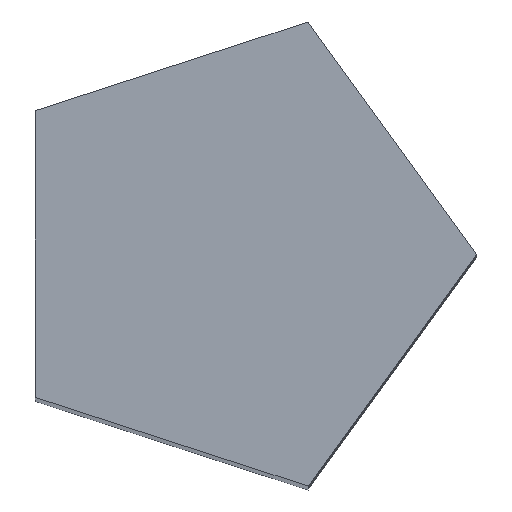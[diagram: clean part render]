
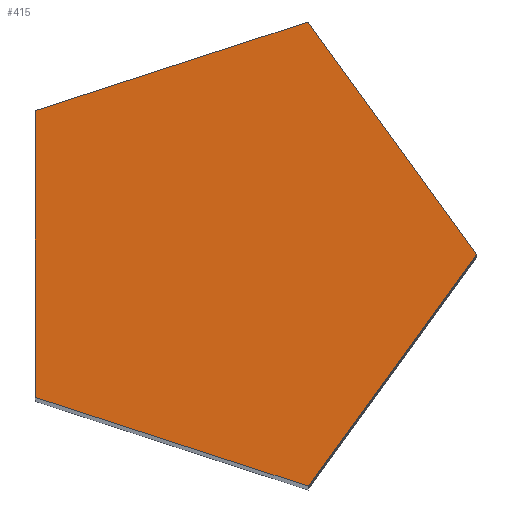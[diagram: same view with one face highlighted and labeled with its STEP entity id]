
A CAD part, top view. The second image highlights one B-rep face of the part: STEP entity #415.
In plain terms, the highlighted planar face has unit normal (0, 0, 1).
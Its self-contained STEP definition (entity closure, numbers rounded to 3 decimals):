
#24 = VERTEX_POINT('',#25);
#25 = CARTESIAN_POINT('',(14.89,0.,137.));
#32 = PLANE('',#33);
#33 = AXIS2_PLACEMENT_3D('',#34,#35,#36);
#34 = CARTESIAN_POINT('',(14.89,0.,0.));
#35 = DIRECTION('',(-0.809,-0.588,0.));
#36 = DIRECTION('',(-0.588,0.809,0.));
#44 = PLANE('',#45);
#45 = AXIS2_PLACEMENT_3D('',#46,#47,#48);
#46 = CARTESIAN_POINT('',(4.601,-14.161,0.));
#47 = DIRECTION('',(-0.809,0.588,0.));
#48 = DIRECTION('',(0.588,0.809,0.));
#56 = EDGE_CURVE('',#24,#57,#59,.T.);
#57 = VERTEX_POINT('',#58);
#58 = CARTESIAN_POINT('',(4.601,14.161,137.));
#59 = SURFACE_CURVE('',#60,(#64,#71),.PCURVE_S1.);
#60 = LINE('',#61,#62);
#61 = CARTESIAN_POINT('',(14.89,0.,137.));
#62 = VECTOR('',#63,1.);
#63 = DIRECTION('',(-0.588,0.809,0.));
#64 = PCURVE('',#32,#65);
#65 = DEFINITIONAL_REPRESENTATION('',(#66),#70);
#66 = LINE('',#67,#68);
#67 = CARTESIAN_POINT('',(0.,-137.));
#68 = VECTOR('',#69,1.);
#69 = DIRECTION('',(1.,0.));
#70 = ( GEOMETRIC_REPRESENTATION_CONTEXT(2) 
PARAMETRIC_REPRESENTATION_CONTEXT() REPRESENTATION_CONTEXT('2D SPACE',''
  ) );
#71 = PCURVE('',#72,#77);
#72 = PLANE('',#73);
#73 = AXIS2_PLACEMENT_3D('',#74,#75,#76);
#74 = CARTESIAN_POINT('',(0.,0.,137.));
#75 = DIRECTION('',(0.,0.,1.));
#76 = DIRECTION('',(1.,0.,-0.));
#77 = DEFINITIONAL_REPRESENTATION('',(#78),#82);
#78 = LINE('',#79,#80);
#79 = CARTESIAN_POINT('',(14.89,0.));
#80 = VECTOR('',#81,1.);
#81 = DIRECTION('',(-0.588,0.809));
#82 = ( GEOMETRIC_REPRESENTATION_CONTEXT(2) 
PARAMETRIC_REPRESENTATION_CONTEXT() REPRESENTATION_CONTEXT('2D SPACE',''
  ) );
#100 = PLANE('',#101);
#101 = AXIS2_PLACEMENT_3D('',#102,#103,#104);
#102 = CARTESIAN_POINT('',(4.601,14.161,0.));
#103 = DIRECTION('',(0.309,-0.951,0.));
#104 = DIRECTION('',(-0.951,-0.309,0.));
#142 = EDGE_CURVE('',#57,#143,#145,.T.);
#143 = VERTEX_POINT('',#144);
#144 = CARTESIAN_POINT('',(-12.046,8.752,137.));
#145 = SURFACE_CURVE('',#146,(#150,#157),.PCURVE_S1.);
#146 = LINE('',#147,#148);
#147 = CARTESIAN_POINT('',(4.601,14.161,137.));
#148 = VECTOR('',#149,1.);
#149 = DIRECTION('',(-0.951,-0.309,0.));
#150 = PCURVE('',#100,#151);
#151 = DEFINITIONAL_REPRESENTATION('',(#152),#156);
#152 = LINE('',#153,#154);
#153 = CARTESIAN_POINT('',(0.,-137.));
#154 = VECTOR('',#155,1.);
#155 = DIRECTION('',(1.,0.));
#156 = ( GEOMETRIC_REPRESENTATION_CONTEXT(2) 
PARAMETRIC_REPRESENTATION_CONTEXT() REPRESENTATION_CONTEXT('2D SPACE',''
  ) );
#157 = PCURVE('',#72,#158);
#158 = DEFINITIONAL_REPRESENTATION('',(#159),#163);
#159 = LINE('',#160,#161);
#160 = CARTESIAN_POINT('',(4.601,14.161));
#161 = VECTOR('',#162,1.);
#162 = DIRECTION('',(-0.951,-0.309));
#163 = ( GEOMETRIC_REPRESENTATION_CONTEXT(2) 
PARAMETRIC_REPRESENTATION_CONTEXT() REPRESENTATION_CONTEXT('2D SPACE',''
  ) );
#181 = PLANE('',#182);
#182 = AXIS2_PLACEMENT_3D('',#183,#184,#185);
#183 = CARTESIAN_POINT('',(-12.046,8.752,0.));
#184 = DIRECTION('',(1.,0.,0.));
#185 = DIRECTION('',(0.,-1.,0.));
#218 = EDGE_CURVE('',#143,#219,#221,.T.);
#219 = VERTEX_POINT('',#220);
#220 = CARTESIAN_POINT('',(-12.046,-8.752,137.));
#221 = SURFACE_CURVE('',#222,(#226,#233),.PCURVE_S1.);
#222 = LINE('',#223,#224);
#223 = CARTESIAN_POINT('',(-12.046,8.752,137.));
#224 = VECTOR('',#225,1.);
#225 = DIRECTION('',(0.,-1.,0.));
#226 = PCURVE('',#181,#227);
#227 = DEFINITIONAL_REPRESENTATION('',(#228),#232);
#228 = LINE('',#229,#230);
#229 = CARTESIAN_POINT('',(0.,-137.));
#230 = VECTOR('',#231,1.);
#231 = DIRECTION('',(1.,0.));
#232 = ( GEOMETRIC_REPRESENTATION_CONTEXT(2) 
PARAMETRIC_REPRESENTATION_CONTEXT() REPRESENTATION_CONTEXT('2D SPACE',''
  ) );
#233 = PCURVE('',#72,#234);
#234 = DEFINITIONAL_REPRESENTATION('',(#235),#239);
#235 = LINE('',#236,#237);
#236 = CARTESIAN_POINT('',(-12.046,8.752));
#237 = VECTOR('',#238,1.);
#238 = DIRECTION('',(0.,-1.));
#239 = ( GEOMETRIC_REPRESENTATION_CONTEXT(2) 
PARAMETRIC_REPRESENTATION_CONTEXT() REPRESENTATION_CONTEXT('2D SPACE',''
  ) );
#257 = PLANE('',#258);
#258 = AXIS2_PLACEMENT_3D('',#259,#260,#261);
#259 = CARTESIAN_POINT('',(-12.046,-8.752,0.));
#260 = DIRECTION('',(0.309,0.951,-0.));
#261 = DIRECTION('',(0.951,-0.309,0.));
#294 = EDGE_CURVE('',#219,#295,#297,.T.);
#295 = VERTEX_POINT('',#296);
#296 = CARTESIAN_POINT('',(4.601,-14.161,137.));
#297 = SURFACE_CURVE('',#298,(#302,#309),.PCURVE_S1.);
#298 = LINE('',#299,#300);
#299 = CARTESIAN_POINT('',(-12.046,-8.752,137.));
#300 = VECTOR('',#301,1.);
#301 = DIRECTION('',(0.951,-0.309,0.));
#302 = PCURVE('',#257,#303);
#303 = DEFINITIONAL_REPRESENTATION('',(#304),#308);
#304 = LINE('',#305,#306);
#305 = CARTESIAN_POINT('',(0.,-137.));
#306 = VECTOR('',#307,1.);
#307 = DIRECTION('',(1.,0.));
#308 = ( GEOMETRIC_REPRESENTATION_CONTEXT(2) 
PARAMETRIC_REPRESENTATION_CONTEXT() REPRESENTATION_CONTEXT('2D SPACE',''
  ) );
#309 = PCURVE('',#72,#310);
#310 = DEFINITIONAL_REPRESENTATION('',(#311),#315);
#311 = LINE('',#312,#313);
#312 = CARTESIAN_POINT('',(-12.046,-8.752));
#313 = VECTOR('',#314,1.);
#314 = DIRECTION('',(0.951,-0.309));
#315 = ( GEOMETRIC_REPRESENTATION_CONTEXT(2) 
PARAMETRIC_REPRESENTATION_CONTEXT() REPRESENTATION_CONTEXT('2D SPACE',''
  ) );
#365 = EDGE_CURVE('',#295,#24,#366,.T.);
#366 = SURFACE_CURVE('',#367,(#371,#378),.PCURVE_S1.);
#367 = LINE('',#368,#369);
#368 = CARTESIAN_POINT('',(4.601,-14.161,137.));
#369 = VECTOR('',#370,1.);
#370 = DIRECTION('',(0.588,0.809,0.));
#371 = PCURVE('',#44,#372);
#372 = DEFINITIONAL_REPRESENTATION('',(#373),#377);
#373 = LINE('',#374,#375);
#374 = CARTESIAN_POINT('',(0.,-137.));
#375 = VECTOR('',#376,1.);
#376 = DIRECTION('',(1.,0.));
#377 = ( GEOMETRIC_REPRESENTATION_CONTEXT(2) 
PARAMETRIC_REPRESENTATION_CONTEXT() REPRESENTATION_CONTEXT('2D SPACE',''
  ) );
#378 = PCURVE('',#72,#379);
#379 = DEFINITIONAL_REPRESENTATION('',(#380),#384);
#380 = LINE('',#381,#382);
#381 = CARTESIAN_POINT('',(4.601,-14.161));
#382 = VECTOR('',#383,1.);
#383 = DIRECTION('',(0.588,0.809));
#384 = ( GEOMETRIC_REPRESENTATION_CONTEXT(2) 
PARAMETRIC_REPRESENTATION_CONTEXT() REPRESENTATION_CONTEXT('2D SPACE',''
  ) );
#415 = ADVANCED_FACE('',(#416),#72,.T.);
#416 = FACE_BOUND('',#417,.T.);
#417 = EDGE_LOOP('',(#418,#419,#420,#421,#422));
#418 = ORIENTED_EDGE('',*,*,#56,.T.);
#419 = ORIENTED_EDGE('',*,*,#142,.T.);
#420 = ORIENTED_EDGE('',*,*,#218,.T.);
#421 = ORIENTED_EDGE('',*,*,#294,.T.);
#422 = ORIENTED_EDGE('',*,*,#365,.T.);
